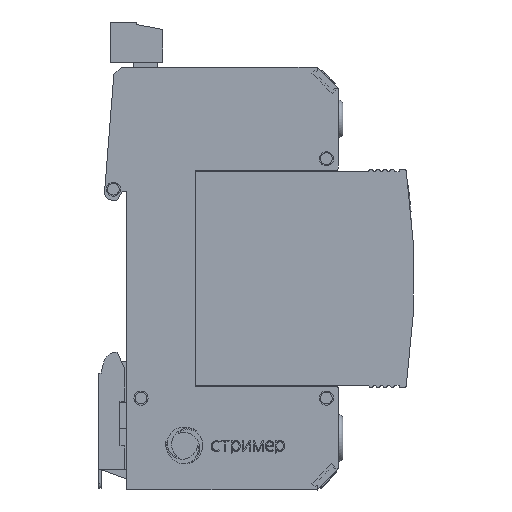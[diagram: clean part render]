
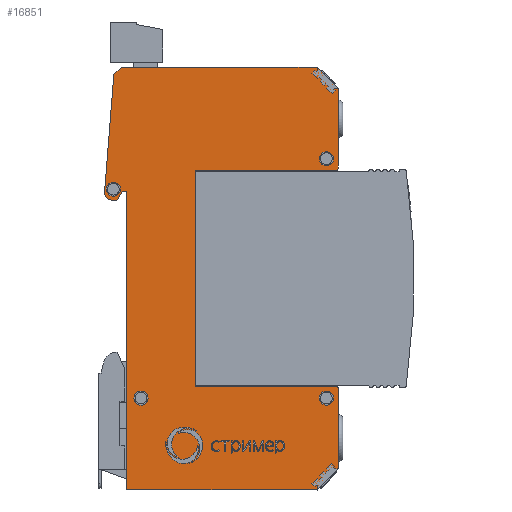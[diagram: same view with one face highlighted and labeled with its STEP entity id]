
A CAD part, front view. The second image highlights one B-rep face of the part: STEP entity #16851.
In plain terms, the highlighted planar face has unit normal (0, -1, 0).
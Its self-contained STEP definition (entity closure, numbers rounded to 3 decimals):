
#15031=CARTESIAN_POINT('',(-14.5,-9.,-45.));
#15032=VERTEX_POINT('',#15031);
#15033=CARTESIAN_POINT('',(26.,-9.,-45.));
#15034=VERTEX_POINT('',#15033);
#15035=CARTESIAN_POINT('',(-14.5,-9.,-45.));
#15036=DIRECTION('',(1.,0.,-0.));
#15037=VECTOR('',#15036,40.5);
#15038=LINE('',#15035,#15037);
#15039=EDGE_CURVE('',#15032,#15034,#15038,.T.);
#15701=CARTESIAN_POINT('',(-14.5,-9.,18.5));
#15702=VERTEX_POINT('',#15701);
#15703=CARTESIAN_POINT('',(-14.5,-9.,18.5));
#15704=DIRECTION('',(0.,0.,-1.));
#15705=VECTOR('',#15704,63.5);
#15706=LINE('',#15703,#15705);
#15707=EDGE_CURVE('',#15702,#15032,#15706,.T.);
#15902=CARTESIAN_POINT('',(-15.5,-9.,45.));
#15903=VERTEX_POINT('',#15902);
#15904=CARTESIAN_POINT('',(-17.29,-9.,43.498));
#15905=VERTEX_POINT('',#15904);
#15906=CARTESIAN_POINT('',(-15.5,-9.,45.));
#15907=DIRECTION('',(-0.766,0.,-0.643));
#15908=VECTOR('',#15907,2.337);
#15909=LINE('',#15906,#15908);
#15910=EDGE_CURVE('',#15903,#15905,#15909,.T.);
#15942=CARTESIAN_POINT('',(-19.273,-9.,18.306));
#15943=VERTEX_POINT('',#15942);
#15944=CARTESIAN_POINT('',(-17.29,-9.,43.498));
#15945=DIRECTION('',(-0.078,0.,-0.997));
#15946=VECTOR('',#15945,25.27);
#15947=LINE('',#15944,#15946);
#15948=EDGE_CURVE('',#15905,#15943,#15947,.T.);
#15973=CARTESIAN_POINT('',(-17.999,-9.,16.704));
#15974=VERTEX_POINT('',#15973);
#15975=CARTESIAN_POINT('',(-17.777,-9.,18.188));
#15976=DIRECTION('',(0.,-1.,0.));
#15977=DIRECTION('',(0.,0.,1.));
#15978=AXIS2_PLACEMENT_3D('',#15975,#15976,#15977);
#15979=CIRCLE('',#15978,1.5);
#15980=EDGE_CURVE('',#15943,#15974,#15979,.T.);
#16006=CARTESIAN_POINT('',(-16.632,-9.,16.5));
#16007=VERTEX_POINT('',#16006);
#16008=CARTESIAN_POINT('',(-17.999,-9.,16.704));
#16009=DIRECTION('',(0.989,0.,-0.148));
#16010=VECTOR('',#16009,1.383);
#16011=LINE('',#16008,#16010);
#16012=EDGE_CURVE('',#15974,#16007,#16011,.T.);
#16037=CARTESIAN_POINT('',(-15.5,-9.,18.5));
#16038=VERTEX_POINT('',#16037);
#16039=CARTESIAN_POINT('',(-16.632,-9.,16.5));
#16040=DIRECTION('',(0.492,0.,0.87));
#16041=VECTOR('',#16040,2.298);
#16042=LINE('',#16039,#16041);
#16043=EDGE_CURVE('',#16007,#16038,#16042,.T.);
#16068=CARTESIAN_POINT('',(-15.5,-9.,18.5));
#16069=DIRECTION('',(1.,0.,0.));
#16070=VECTOR('',#16069,1.);
#16071=LINE('',#16068,#16070);
#16072=EDGE_CURVE('',#16038,#15702,#16071,.T.);
#16090=CARTESIAN_POINT('',(30.5,-9.,-40.5));
#16091=VERTEX_POINT('',#16090);
#16092=CARTESIAN_POINT('',(26.,-9.,-45.));
#16093=DIRECTION('',(0.707,0.,0.707));
#16094=VECTOR('',#16093,6.364);
#16095=LINE('',#16092,#16094);
#16096=EDGE_CURVE('',#15034,#16091,#16095,.T.);
#16141=CARTESIAN_POINT('',(30.5,-9.,-23.5));
#16142=VERTEX_POINT('',#16141);
#16143=CARTESIAN_POINT('',(30.5,-9.,-40.5));
#16144=DIRECTION('',(0.,0.,1.));
#16145=VECTOR('',#16144,17.);
#16146=LINE('',#16143,#16145);
#16147=EDGE_CURVE('',#16091,#16142,#16146,.T.);
#16172=CARTESIAN_POINT('',(30.,-9.,-23.));
#16173=VERTEX_POINT('',#16172);
#16174=CARTESIAN_POINT('',(30.,-9.,-23.5));
#16175=DIRECTION('',(0.,-1.,0.));
#16176=DIRECTION('',(0.,0.,1.));
#16177=AXIS2_PLACEMENT_3D('',#16174,#16175,#16176);
#16178=CIRCLE('',#16177,0.5);
#16179=EDGE_CURVE('',#16142,#16173,#16178,.T.);
#16205=CARTESIAN_POINT('',(0.,-9.,-23.));
#16206=VERTEX_POINT('',#16205);
#16207=CARTESIAN_POINT('',(30.,-9.,-23.));
#16208=DIRECTION('',(-1.,0.,0.));
#16209=VECTOR('',#16208,30.);
#16210=LINE('',#16207,#16209);
#16211=EDGE_CURVE('',#16173,#16206,#16210,.T.);
#16236=CARTESIAN_POINT('',(0.,-9.,23.));
#16237=VERTEX_POINT('',#16236);
#16238=CARTESIAN_POINT('',(0.,-9.,-23.));
#16239=DIRECTION('',(0.,0.,1.));
#16240=VECTOR('',#16239,46.);
#16241=LINE('',#16238,#16240);
#16242=EDGE_CURVE('',#16206,#16237,#16241,.T.);
#16267=CARTESIAN_POINT('',(30.,-9.,23.));
#16268=VERTEX_POINT('',#16267);
#16269=CARTESIAN_POINT('',(0.,-9.,23.));
#16270=DIRECTION('',(1.,0.,0.));
#16271=VECTOR('',#16270,30.);
#16272=LINE('',#16269,#16271);
#16273=EDGE_CURVE('',#16237,#16268,#16272,.T.);
#16298=CARTESIAN_POINT('',(30.5,-9.,23.5));
#16299=VERTEX_POINT('',#16298);
#16300=CARTESIAN_POINT('',(30.,-9.,23.5));
#16301=DIRECTION('',(0.,-1.,0.));
#16302=DIRECTION('',(0.,0.,1.));
#16303=AXIS2_PLACEMENT_3D('',#16300,#16301,#16302);
#16304=CIRCLE('',#16303,0.5);
#16305=EDGE_CURVE('',#16268,#16299,#16304,.T.);
#16371=CARTESIAN_POINT('',(30.5,-9.,40.5));
#16372=VERTEX_POINT('',#16371);
#16373=CARTESIAN_POINT('',(30.5,-9.,23.5));
#16374=DIRECTION('',(0.,0.,1.));
#16375=VECTOR('',#16374,17.);
#16376=LINE('',#16373,#16375);
#16377=EDGE_CURVE('',#16299,#16372,#16376,.T.);
#16402=CARTESIAN_POINT('',(26.,-9.,45.));
#16403=VERTEX_POINT('',#16402);
#16404=CARTESIAN_POINT('',(30.5,-9.,40.5));
#16405=DIRECTION('',(-0.707,0.,0.707));
#16406=VECTOR('',#16405,6.364);
#16407=LINE('',#16404,#16406);
#16408=EDGE_CURVE('',#16372,#16403,#16407,.T.);
#16433=CARTESIAN_POINT('',(-17.38,-9.,17.5));
#16434=VERTEX_POINT('',#16433);
#16443=CARTESIAN_POINT('',(-18.88,-9.,19.));
#16444=VERTEX_POINT('',#16443);
#16445=CARTESIAN_POINT('',(-17.38,-9.,19.));
#16446=DIRECTION('',(0.,-1.,0.));
#16447=DIRECTION('',(-1.,0.,0.));
#16448=AXIS2_PLACEMENT_3D('',#16445,#16446,#16447);
#16449=CIRCLE('',#16448,1.5);
#16450=EDGE_CURVE('',#16434,#16444,#16449,.T.);
#16475=CARTESIAN_POINT('',(28.,-9.,24.));
#16476=VERTEX_POINT('',#16475);
#16485=CARTESIAN_POINT('',(26.5,-9.,25.5));
#16486=VERTEX_POINT('',#16485);
#16487=CARTESIAN_POINT('',(28.,-9.,25.5));
#16488=DIRECTION('',(0.,-1.,0.));
#16489=DIRECTION('',(-1.,0.,0.));
#16490=AXIS2_PLACEMENT_3D('',#16487,#16488,#16489);
#16491=CIRCLE('',#16490,1.5);
#16492=EDGE_CURVE('',#16476,#16486,#16491,.T.);
#16517=CARTESIAN_POINT('',(-11.5,-9.,-27.));
#16518=VERTEX_POINT('',#16517);
#16527=CARTESIAN_POINT('',(-13.,-9.,-25.5));
#16528=VERTEX_POINT('',#16527);
#16529=CARTESIAN_POINT('',(-11.5,-9.,-25.5));
#16530=DIRECTION('',(0.,-1.,0.));
#16531=DIRECTION('',(-1.,0.,0.));
#16532=AXIS2_PLACEMENT_3D('',#16529,#16530,#16531);
#16533=CIRCLE('',#16532,1.5);
#16534=EDGE_CURVE('',#16518,#16528,#16533,.T.);
#16559=CARTESIAN_POINT('',(28.,-9.,-27.));
#16560=VERTEX_POINT('',#16559);
#16569=CARTESIAN_POINT('',(26.5,-9.,-25.5));
#16570=VERTEX_POINT('',#16569);
#16571=CARTESIAN_POINT('',(28.,-9.,-25.5));
#16572=DIRECTION('',(0.,-1.,0.));
#16573=DIRECTION('',(-1.,0.,0.));
#16574=AXIS2_PLACEMENT_3D('',#16571,#16572,#16573);
#16575=CIRCLE('',#16574,1.5);
#16576=EDGE_CURVE('',#16560,#16570,#16575,.T.);
#16703=CARTESIAN_POINT('',(26.,-9.,45.));
#16704=DIRECTION('',(-1.,0.,0.));
#16705=VECTOR('',#16704,41.5);
#16706=LINE('',#16703,#16705);
#16707=EDGE_CURVE('',#16403,#15903,#16706,.T.);
#16786=CARTESIAN_POINT('',(0.,-9.,0.));
#16787=DIRECTION('',(0.,-1.,0.));
#16788=DIRECTION('',(0.,0.,1.));
#16789=AXIS2_PLACEMENT_3D('',#16786,#16787,#16788);
#16790=PLANE('',#16789);
#16791=ORIENTED_EDGE('',*,*,#16576,.F.);
#16792=CARTESIAN_POINT('',(28.,-9.,-25.5));
#16793=DIRECTION('',(0.,-1.,0.));
#16794=DIRECTION('',(-1.,0.,0.));
#16795=AXIS2_PLACEMENT_3D('',#16792,#16793,#16794);
#16796=CIRCLE('',#16795,1.5);
#16797=EDGE_CURVE('',#16570,#16560,#16796,.T.);
#16798=ORIENTED_EDGE('',*,*,#16797,.F.);
#16799=EDGE_LOOP('',(#16791,#16798));
#16800=FACE_BOUND('',#16799,.T.);
#16801=ORIENTED_EDGE('',*,*,#16534,.F.);
#16802=CARTESIAN_POINT('',(-11.5,-9.,-25.5));
#16803=DIRECTION('',(0.,-1.,0.));
#16804=DIRECTION('',(-1.,0.,0.));
#16805=AXIS2_PLACEMENT_3D('',#16802,#16803,#16804);
#16806=CIRCLE('',#16805,1.5);
#16807=EDGE_CURVE('',#16528,#16518,#16806,.T.);
#16808=ORIENTED_EDGE('',*,*,#16807,.F.);
#16809=EDGE_LOOP('',(#16801,#16808));
#16810=FACE_BOUND('',#16809,.T.);
#16811=ORIENTED_EDGE('',*,*,#16492,.F.);
#16812=CARTESIAN_POINT('',(28.,-9.,25.5));
#16813=DIRECTION('',(0.,-1.,0.));
#16814=DIRECTION('',(-1.,0.,0.));
#16815=AXIS2_PLACEMENT_3D('',#16812,#16813,#16814);
#16816=CIRCLE('',#16815,1.5);
#16817=EDGE_CURVE('',#16486,#16476,#16816,.T.);
#16818=ORIENTED_EDGE('',*,*,#16817,.F.);
#16819=EDGE_LOOP('',(#16811,#16818));
#16820=FACE_BOUND('',#16819,.T.);
#16821=ORIENTED_EDGE('',*,*,#16450,.F.);
#16822=CARTESIAN_POINT('',(-17.38,-9.,19.));
#16823=DIRECTION('',(0.,-1.,0.));
#16824=DIRECTION('',(-1.,0.,0.));
#16825=AXIS2_PLACEMENT_3D('',#16822,#16823,#16824);
#16826=CIRCLE('',#16825,1.5);
#16827=EDGE_CURVE('',#16444,#16434,#16826,.T.);
#16828=ORIENTED_EDGE('',*,*,#16827,.F.);
#16829=EDGE_LOOP('',(#16821,#16828));
#16830=FACE_BOUND('',#16829,.T.);
#16831=ORIENTED_EDGE('',*,*,#15910,.T.);
#16832=ORIENTED_EDGE('',*,*,#15948,.T.);
#16833=ORIENTED_EDGE('',*,*,#15980,.T.);
#16834=ORIENTED_EDGE('',*,*,#16012,.T.);
#16835=ORIENTED_EDGE('',*,*,#16043,.T.);
#16836=ORIENTED_EDGE('',*,*,#16072,.T.);
#16837=ORIENTED_EDGE('',*,*,#15707,.T.);
#16838=ORIENTED_EDGE('',*,*,#15039,.T.);
#16839=ORIENTED_EDGE('',*,*,#16096,.T.);
#16840=ORIENTED_EDGE('',*,*,#16147,.T.);
#16841=ORIENTED_EDGE('',*,*,#16179,.T.);
#16842=ORIENTED_EDGE('',*,*,#16211,.T.);
#16843=ORIENTED_EDGE('',*,*,#16242,.T.);
#16844=ORIENTED_EDGE('',*,*,#16273,.T.);
#16845=ORIENTED_EDGE('',*,*,#16305,.T.);
#16846=ORIENTED_EDGE('',*,*,#16377,.T.);
#16847=ORIENTED_EDGE('',*,*,#16408,.T.);
#16848=ORIENTED_EDGE('',*,*,#16707,.T.);
#16849=EDGE_LOOP('',(#16831,#16832,#16833,#16834,#16835,#16836,#16837,#16838,#16839,#16840,#16841,#16842,#16843,#16844,#16845,#16846,#16847,#16848));
#16850=FACE_BOUND('',#16849,.T.);
#16851=ADVANCED_FACE('',(#16800,#16810,#16820,#16830,#16850),#16790,.T.);
